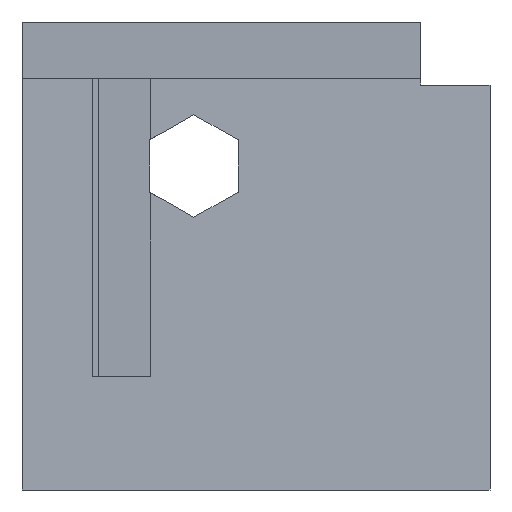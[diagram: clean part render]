
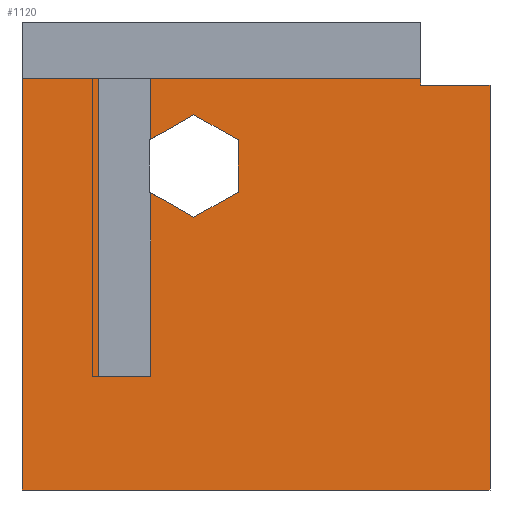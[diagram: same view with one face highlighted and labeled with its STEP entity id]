
A CAD part, front view. The second image highlights one B-rep face of the part: STEP entity #1120.
In plain terms, the highlighted planar face has unit normal (0.075, -0.997, 0).
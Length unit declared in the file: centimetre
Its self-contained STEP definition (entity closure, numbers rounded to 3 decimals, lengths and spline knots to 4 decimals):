
#10 = EDGE_CURVE ( 'NONE', #382, #1095, #322, .T. ) ;
#22 = CARTESIAN_POINT ( 'NONE',  ( 851.6743, 242.1025, 865.1644 ) ) ;
#30 = EDGE_CURVE ( 'NONE', #956, #582, #106, .T. ) ;
#41 = DIRECTION ( 'NONE',  ( 0.997, 0.075, 0. ) ) ;
#57 = ORIENTED_EDGE ( 'NONE', *, *, #30, .F. ) ;
#62 = LINE ( 'NONE', #475, #664 ) ;
#68 = LINE ( 'NONE', #893, #224 ) ;
#81 = EDGE_CURVE ( 'NONE', #956, #382, #232, .T. ) ;
#94 = ORIENTED_EDGE ( 'NONE', *, *, #881, .F. ) ;
#96 = DIRECTION ( 'NONE',  ( 0., 0., -1. ) ) ;
#106 = LINE ( 'NONE', #534, #331 ) ;
#110 = VECTOR ( 'NONE', #743, 100. ) ;
#112 = CARTESIAN_POINT ( 'NONE',  ( 275.1242, 198.6239, 879.286 ) ) ;
#136 = VECTOR ( 'NONE', #212, 100. ) ;
#137 = ORIENTED_EDGE ( 'NONE', *, *, #858, .F. ) ;
#150 = CARTESIAN_POINT ( 'NONE',  ( 275.1242, 198.6239, 242.013 ) ) ;
#151 = ORIENTED_EDGE ( 'NONE', *, *, #754, .F. ) ;
#167 = LINE ( 'NONE', #371, #903 ) ;
#170 = VERTEX_POINT ( 'NONE', #467 ) ;
#183 = DIRECTION ( 'NONE',  ( 0., 0., -1. ) ) ;
#191 = DIRECTION ( 'NONE',  ( 0., 0., 1. ) ) ;
#192 = EDGE_CURVE ( 'NONE', #598, #806, #872, .T. ) ;
#196 = VERTEX_POINT ( 'NONE', #641 ) ;
#212 = DIRECTION ( 'NONE',  ( 0.997, 0.075, 0. ) ) ;
#214 = LINE ( 'NONE', #430, #110 ) ;
#224 = VECTOR ( 'NONE', #886, 100. ) ;
#232 = LINE ( 'NONE', #1318, #1183 ) ;
#252 = CARTESIAN_POINT ( 'NONE',  ( 719.0617, 232.102, 382.6272 ) ) ;
#259 = CARTESIAN_POINT ( 'NONE',  ( 462.3515, 212.743, 748.1834 ) ) ;
#279 = ORIENTED_EDGE ( 'NONE', *, *, #829, .T. ) ;
#297 = ORIENTED_EDGE ( 'NONE', *, *, #871, .T. ) ;
#304 = LINE ( 'NONE', #899, #136 ) ;
#310 = VECTOR ( 'NONE', #773, 100. ) ;
#313 = DIRECTION ( 'NONE',  ( -0.867, -0.065, 0.493 ) ) ;
#320 = VERTEX_POINT ( 'NONE', #446 ) ;
#322 = LINE ( 'NONE', #1132, #731 ) ;
#331 = VECTOR ( 'NONE', #732, 100. ) ;
#368 = CARTESIAN_POINT ( 'NONE',  ( 1000., 253.288, 879.286 ) ) ;
#370 = EDGE_CURVE ( 'NONE', #401, #1298, #973, .T. ) ;
#371 = CARTESIAN_POINT ( 'NONE',  ( 1000., 253.288, 879.286 ) ) ;
#374 = VECTOR ( 'NONE', #191, 100. ) ;
#379 = CARTESIAN_POINT ( 'NONE',  ( 366.9461, 205.5483, 801.6717 ) ) ;
#382 = VERTEX_POINT ( 'NONE', #379 ) ;
#389 = ORIENTED_EDGE ( 'NONE', *, *, #391, .F. ) ;
#391 = EDGE_CURVE ( 'NONE', #582, #717, #167, .T. ) ;
#399 = VECTOR ( 'NONE', #183, 100. ) ;
#400 = EDGE_CURVE ( 'NONE', #1284, #170, #62, .T. ) ;
#401 = VERTEX_POINT ( 'NONE', #882 ) ;
#410 = CARTESIAN_POINT ( 'NONE',  ( 164.2637, 190.2637, 242.013 ) ) ;
#430 = CARTESIAN_POINT ( 'NONE',  ( 851.6743, 242.1025, 865.1644 ) ) ;
#446 = CARTESIAN_POINT ( 'NONE',  ( 366.9461, 205.5483, 582.9365 ) ) ;
#464 = FACE_OUTER_BOUND ( 'NONE', #1081, .T. ) ;
#466 = CARTESIAN_POINT ( 'NONE',  ( 462.3515, 212.743, 879.286 ) ) ;
#467 = CARTESIAN_POINT ( 'NONE',  ( 1000., 253.288, 865.1644 ) ) ;
#475 = CARTESIAN_POINT ( 'NONE',  ( 908.5054, 246.3883, 865.1644 ) ) ;
#481 = ORIENTED_EDGE ( 'NONE', *, *, #1158, .T. ) ;
#502 = LINE ( 'NONE', #1008, #1057 ) ;
#534 = CARTESIAN_POINT ( 'NONE',  ( 275.1242, 198.6239, 242.013 ) ) ;
#582 = VERTEX_POINT ( 'NONE', #112 ) ;
#583 = CARTESIAN_POINT ( 'NONE',  ( 275.1242, 198.6239, 242.013 ) ) ;
#593 = ORIENTED_EDGE ( 'NONE', *, *, #10, .T. ) ;
#598 = VERTEX_POINT ( 'NONE', #729 ) ;
#614 = ORIENTED_EDGE ( 'NONE', *, *, #1065, .F. ) ;
#618 = CARTESIAN_POINT ( 'NONE',  ( 275.1242, 198.6239, 749.4366 ) ) ;
#641 = CARTESIAN_POINT ( 'NONE',  ( 164.2637, 190.2637, 242.013 ) ) ;
#664 = VECTOR ( 'NONE', #41, 100. ) ;
#699 = VERTEX_POINT ( 'NONE', #1005 ) ;
#700 = DIRECTION ( 'NONE',  ( -0.87, -0.066, -0.488 ) ) ;
#712 = VECTOR ( 'NONE', #313, 100. ) ;
#716 = LINE ( 'NONE', #1243, #1210 ) ;
#717 = VERTEX_POINT ( 'NONE', #1220 ) ;
#729 = CARTESIAN_POINT ( 'NONE',  ( 0., 177.8763, 879.286 ) ) ;
#731 = VECTOR ( 'NONE', #1138, 100. ) ;
#732 = DIRECTION ( 'NONE',  ( 0., 0., 1. ) ) ;
#742 = CARTESIAN_POINT ( 'NONE',  ( 1000., 253.288, 0. ) ) ;
#743 = DIRECTION ( 'NONE',  ( 0., 0., -1. ) ) ;
#754 = EDGE_CURVE ( 'NONE', #1111, #856, #812, .T. ) ;
#756 = AXIS2_PLACEMENT_3D ( 'NONE', #1127, #828, #822 ) ;
#773 = DIRECTION ( 'NONE',  ( 0.997, 0.075, 0. ) ) ;
#797 = VECTOR ( 'NONE', #959, 100. ) ;
#806 = VERTEX_POINT ( 'NONE', #998 ) ;
#812 = LINE ( 'NONE', #583, #374 ) ;
#822 = DIRECTION ( 'NONE',  ( -0.997, -0.075, 0. ) ) ;
#828 = DIRECTION ( 'NONE',  ( -0.075, 0.997, 0. ) ) ;
#829 = EDGE_CURVE ( 'NONE', #320, #856, #1134, .T. ) ;
#830 = DIRECTION ( 'NONE',  ( 0., 0., -1. ) ) ;
#856 = VERTEX_POINT ( 'NONE', #1237 ) ;
#858 = EDGE_CURVE ( 'NONE', #717, #1284, #214, .T. ) ;
#870 = PLANE ( 'NONE',  #756 ) ;
#871 = EDGE_CURVE ( 'NONE', #598, #401, #716, .T. ) ;
#872 = LINE ( 'NONE', #368, #310 ) ;
#875 = ORIENTED_EDGE ( 'NONE', *, *, #1323, .T. ) ;
#881 = EDGE_CURVE ( 'NONE', #806, #196, #1320, .T. ) ;
#882 = CARTESIAN_POINT ( 'NONE',  ( 0., 177.8763, 0. ) ) ;
#886 = DIRECTION ( 'NONE',  ( 0., 0., -1. ) ) ;
#893 = CARTESIAN_POINT ( 'NONE',  ( 1000., 253.288, 879.286 ) ) ;
#899 = CARTESIAN_POINT ( 'NONE',  ( -13.3381, 176.8704, 242.013 ) ) ;
#903 = VECTOR ( 'NONE', #981, 100. ) ;
#956 = VERTEX_POINT ( 'NONE', #618 ) ;
#959 = DIRECTION ( 'NONE',  ( 0.997, 0.075, 0. ) ) ;
#973 = LINE ( 'NONE', #1180, #797 ) ;
#981 = DIRECTION ( 'NONE',  ( 0.997, 0.075, 0. ) ) ;
#982 = ORIENTED_EDGE ( 'NONE', *, *, #370, .T. ) ;
#987 = LINE ( 'NONE', #466, #399 ) ;
#998 = CARTESIAN_POINT ( 'NONE',  ( 164.2637, 190.2637, 879.286 ) ) ;
#1005 = CARTESIAN_POINT ( 'NONE',  ( 462.3515, 212.743, 636.4247 ) ) ;
#1008 = CARTESIAN_POINT ( 'NONE',  ( 975.1251, 251.4122, 923.907 ) ) ;
#1048 = DIRECTION ( 'NONE',  ( 0.867, 0.065, 0.493 ) ) ;
#1057 = VECTOR ( 'NONE', #700, 100. ) ;
#1065 = EDGE_CURVE ( 'NONE', #170, #1298, #68, .T. ) ;
#1081 = EDGE_LOOP ( 'NONE', ( #57, #1306, #593, #875, #481, #279, #151, #1108, #94, #1268, #297, #982, #614, #1293, #137, #389 ) ) ;
#1095 = VERTEX_POINT ( 'NONE', #259 ) ;
#1108 = ORIENTED_EDGE ( 'NONE', *, *, #1174, .F. ) ;
#1111 = VERTEX_POINT ( 'NONE', #150 ) ;
#1120 = ADVANCED_FACE ( 'NONE', ( #464 ), #870, .F. ) ;
#1127 = CARTESIAN_POINT ( 'NONE',  ( 1000., 253.288, 879.286 ) ) ;
#1132 = CARTESIAN_POINT ( 'NONE',  ( 816.2926, 239.4343, 549.7492 ) ) ;
#1134 = LINE ( 'NONE', #252, #712 ) ;
#1138 = DIRECTION ( 'NONE',  ( 0.87, 0.066, -0.488 ) ) ;
#1158 = EDGE_CURVE ( 'NONE', #699, #320, #502, .T. ) ;
#1174 = EDGE_CURVE ( 'NONE', #196, #1111, #304, .T. ) ;
#1180 = CARTESIAN_POINT ( 'NONE',  ( 1000., 253.288, 0. ) ) ;
#1183 = VECTOR ( 'NONE', #1048, 100. ) ;
#1210 = VECTOR ( 'NONE', #96, 100. ) ;
#1220 = CARTESIAN_POINT ( 'NONE',  ( 851.6743, 242.1025, 879.286 ) ) ;
#1237 = CARTESIAN_POINT ( 'NONE',  ( 275.1242, 198.6239, 635.1715 ) ) ;
#1243 = CARTESIAN_POINT ( 'NONE',  ( 0., 177.8763, 879.286 ) ) ;
#1268 = ORIENTED_EDGE ( 'NONE', *, *, #192, .F. ) ;
#1284 = VERTEX_POINT ( 'NONE', #22 ) ;
#1287 = VECTOR ( 'NONE', #830, 100. ) ;
#1293 = ORIENTED_EDGE ( 'NONE', *, *, #400, .F. ) ;
#1298 = VERTEX_POINT ( 'NONE', #742 ) ;
#1306 = ORIENTED_EDGE ( 'NONE', *, *, #81, .T. ) ;
#1318 = CARTESIAN_POINT ( 'NONE',  ( 879.0989, 244.1707, 1093.0218 ) ) ;
#1320 = LINE ( 'NONE', #410, #1287 ) ;
#1323 = EDGE_CURVE ( 'NONE', #1095, #699, #987, .T. ) ;
